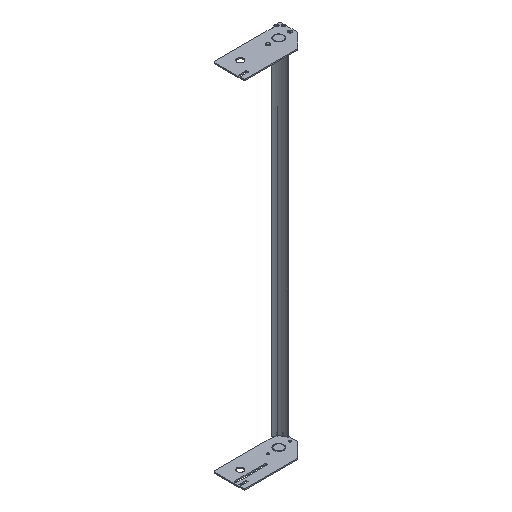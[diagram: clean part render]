
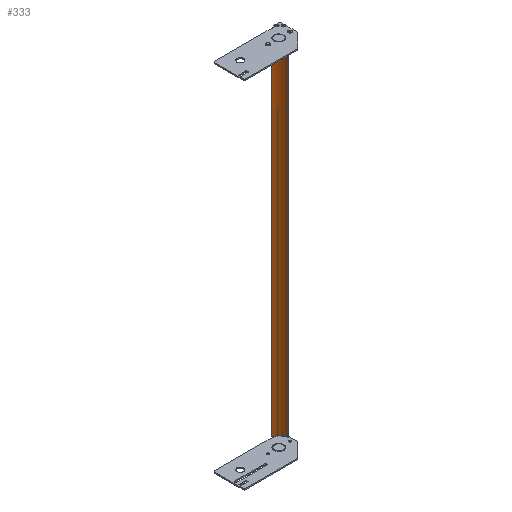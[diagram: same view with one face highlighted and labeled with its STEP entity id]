
A CAD part, isometric view. The second image highlights one B-rep face of the part: STEP entity #333.
In plain terms, the highlighted cylindrical face has radius 40.64 mm (diameter 81.28 mm), a partial arc.
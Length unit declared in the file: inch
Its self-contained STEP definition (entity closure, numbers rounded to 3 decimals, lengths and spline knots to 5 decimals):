
#40=CARTESIAN_POINT('',(-1.52,1.63,-20.118));
#41=DIRECTION('',(0.,0.,-1.));
#42=DIRECTION('',(0.914,-0.405,0.));
#43=AXIS2_PLACEMENT_3D('',#40,#41,#42);
#87=CARTESIAN_POINT('',(-1.52,1.63,20.118));
#88=DIRECTION('',(0.,0.,-1.));
#89=DIRECTION('',(0.914,-0.405,0.));
#90=AXIS2_PLACEMENT_3D('',#87,#88,#89);
#118=DIRECTION('',(0.,0.,1.));
#119=VECTOR('',#118,40.236);
#120=CARTESIAN_POINT('',(-1.00032,0.11675,-20.118));
#121=LINE('',#120,#119);
#122=DIRECTION('',(0.,0.,1.));
#123=VECTOR('',#122,40.236);
#124=CARTESIAN_POINT('',(-0.05742,0.98126,-20.118));
#125=LINE('',#124,#123);
#154=CARTESIAN_POINT('',(-0.05742,0.98126,-20.118));
#155=VERTEX_POINT('',#154);
#156=CARTESIAN_POINT('',(-1.00032,0.11675,-20.118));
#157=VERTEX_POINT('',#156);
#174=CARTESIAN_POINT('',(-0.05742,0.98126,20.118));
#175=VERTEX_POINT('',#174);
#176=CARTESIAN_POINT('',(-1.00032,0.11675,20.118));
#177=VERTEX_POINT('',#176);
#321=CARTESIAN_POINT('',(-1.52,1.63,-20.118));
#322=DIRECTION('',(0.,0.,1.));
#323=DIRECTION('',(1.,0.,0.));
#324=AXIS2_PLACEMENT_3D('',#321,#322,#323);
#325=CYLINDRICAL_SURFACE('',#324,1.6);
#326=ORIENTED_EDGE('',*,*,#191,.F.);
#328=ORIENTED_EDGE('',*,*,#327,.T.);
#329=ORIENTED_EDGE('',*,*,#247,.T.);
#330=ORIENTED_EDGE('',*,*,#314,.F.);
#331=EDGE_LOOP('',(#326,#328,#329,#330));
#332=FACE_OUTER_BOUND('',#331,.F.);
#44=CIRCLE('',#43,1.6);
#91=CIRCLE('',#90,1.6);
#191=EDGE_CURVE('',#155,#157,#44,.T.);
#247=EDGE_CURVE('',#175,#177,#91,.T.);
#314=EDGE_CURVE('',#157,#177,#121,.T.);
#327=EDGE_CURVE('',#155,#175,#125,.T.);
#333=ADVANCED_FACE('',(#332),#325,.F.);
